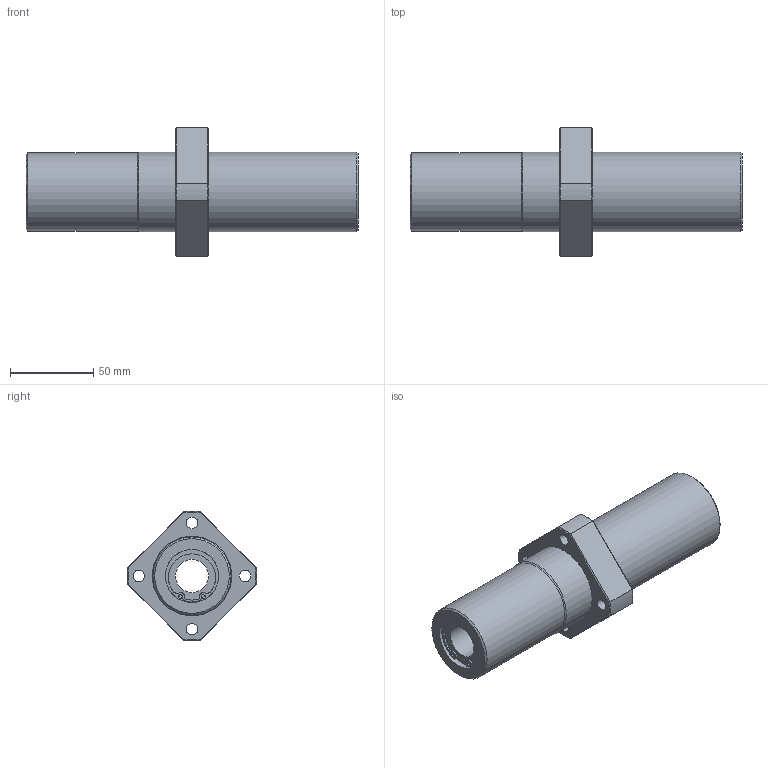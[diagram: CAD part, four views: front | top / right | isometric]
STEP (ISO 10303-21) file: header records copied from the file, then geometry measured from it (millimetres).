
FILE_DESCRIPTION((''),'2;1');
FILE_NAME('C:\Documents and Settings\土屋\My Documents\土屋移動用フォルダ\製品 (図面)\カタログ用3D\変換ファイル\OZAK_3D-CAD(STEP形式)\Part1.-Linear Bearings_ﾘﾆｱﾍﾞｱﾘﾝｸﾞ\09_Maintenance Free_ﾒｲﾝﾃﾅﾝｽﾌﾘｰ\L2017-09-22T14:14:21','2017-09-22T14:14:21',('y'),(''),'Autodesk Inventor 11','Autodesk Inventor 11','');
FILE_SCHEMA(('AUTOMOTIVE_DESIGN { 1 0 10303 214 1 1 1 1 }'));
Length unit declared in the file: millimetre
Products named in the file (1): LFWLC20MF
Bounding box: 200 x 77.92 x 77.92 mm (x, y, z)
Volume: 326037.1 mm3; surface area: 56783.1 mm2
Topology: 1 solids, 7 shells, 115 faces, 265 edges, 162 vertices
Faces by surface type: plane 36, bspline 34, cylinder 32, cone 11, torus 2
Full cylindrical faces by diameter (mm): 2.5 x2, 7 x4, 20 x2, 29 x2, 30.3 x2, 32 x8, 47 x1, 48 x2
Entity records: 3257 total; most frequent: CARTESIAN_POINT 872, DIRECTION 496, ORIENTED_EDGE 420, AXIS2_PLACEMENT_3D 220, EDGE_CURVE 210, EDGE_LOOP 186, VERTEX_POINT 146, CIRCLE 138
